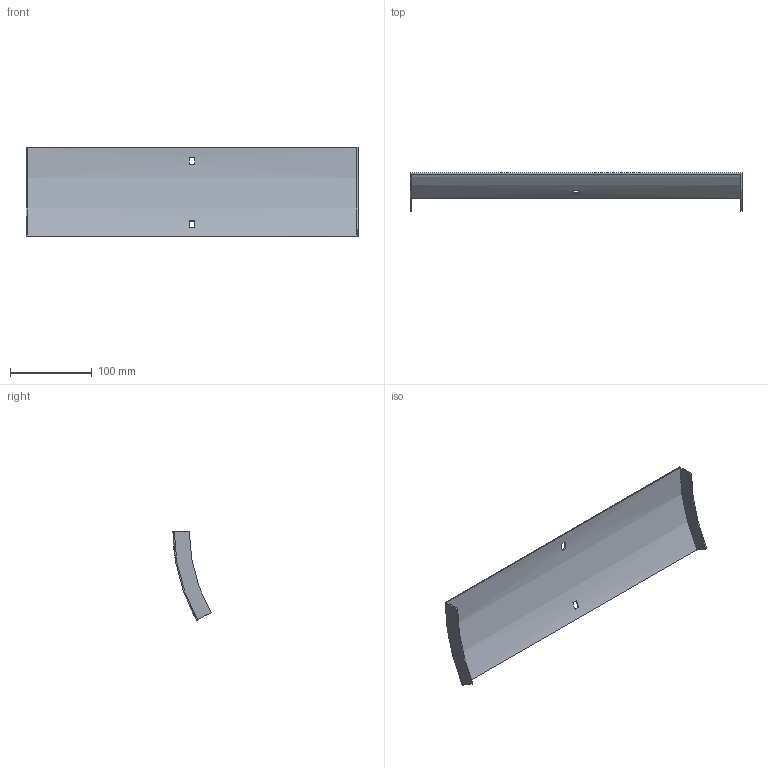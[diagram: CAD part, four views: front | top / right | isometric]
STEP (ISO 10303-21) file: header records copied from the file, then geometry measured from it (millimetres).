
FILE_DESCRIPTION (( 'STEP AP214' ), '1' );
FILE_NAME ('35N1J400.step', '2025-02-21T09:11:32', ( '' ), ( '' ), 'SwSTEP 2.0', 'SolidWorks 2023', '' );
FILE_SCHEMA (( 'AUTOMOTIVE_DESIGN' ));
Length unit declared in the file: millimetre
Products named in the file (1): 35N1J400
Bounding box: 407 x 46.66 x 109.5 mm (x, y, z)
Volume: 75640.8 mm3; surface area: 102593.5 mm2
Topology: 1 solids, 1 shells, 18 faces, 48 edges, 32 vertices
Faces by surface type: plane 14, cylinder 4
Entity records: 599 total; most frequent: DIRECTION 102, CARTESIAN_POINT 99, ORIENTED_EDGE 96, EDGE_CURVE 48, AXIS2_PLACEMENT_3D 35, LINE 32, VERTEX_POINT 32, VECTOR 32
